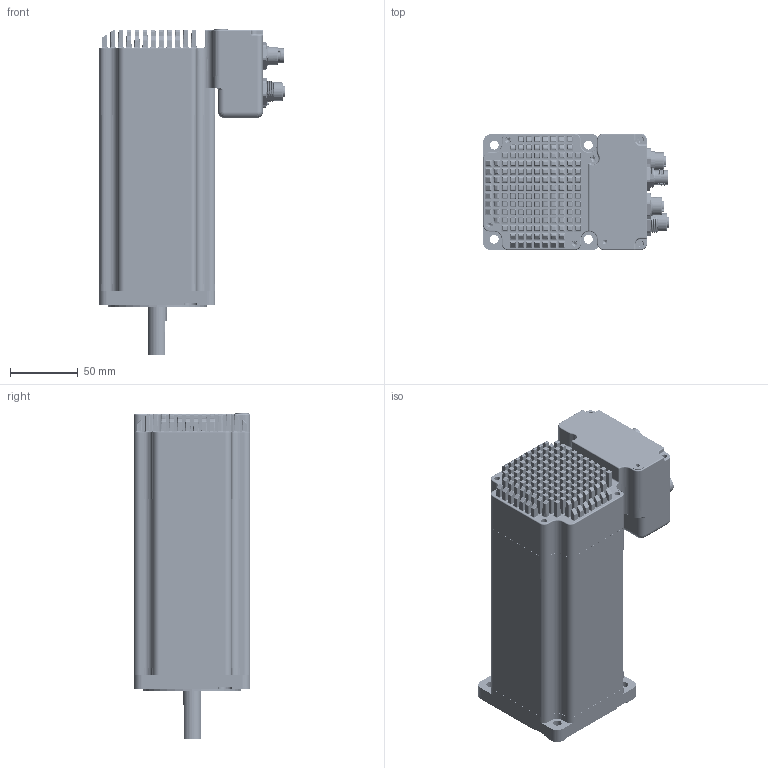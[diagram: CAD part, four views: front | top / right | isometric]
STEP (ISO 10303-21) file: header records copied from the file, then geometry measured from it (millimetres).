
FILE_DESCRIPTION (( 'STEP AP214' ), '1' );
FILE_NAME ('SWM34-6.STEP', '2016-04-29T08:19:31', ( '' ), ( '' ), 'SwSTEP 2.0', 'SolidWorks 2014', '' );
FILE_SCHEMA (( 'AUTOMOTIVE_DESIGN' ));
Length unit declared in the file: millimetre
Products named in the file (33): SWM34-6; 15427292_1; 415271_3; BA-L37PAC0AX_XX_4; 99006051X1111; 1419645; 415371; 14241331; 415371_2; BP-L22HAG0AX_XX_ASM_SW0001_2; 1430462; SWM34侧出线散热盖-00; SWM34耜堤盄萇儂裔-00; SWM34步进伺服电机集成后端盖; SWM34棠晤萇儂粣; 86步进伺服电机前端盖-2015.4.23; SWM34-6萇儂隅赽
Assembly tree (18 placements, depth 3):
  SWM34-6
    SWM34-6萇儂隅赽
    86步进伺服电机前端盖-2015.4.23
    SWM34棠晤萇儂粣
    SWM34步进伺服电机集成后端盖
    SWM34耜堤盄萇儂裔-00
    SWM34侧出线散热盖-00
    1430462
    14241331
      BP-L22HAG0AX_XX_ASM_SW0001_2
      415371_2
    1419645
      1419645
      415371
    99006051X1111  x2
    15427292_1
      BA-L37PAC0AX_XX_4
      415271_3
  BA-L37PAC0AX_XX_4
  99006051X1111
  99006051X1111
  415371
Bounding box: 137.3 x 86 x 240.5 mm (x, y, z)
Volume: 827261.9 mm3; surface area: 338328.1 mm2
Topology: 10 solids, 495 shells, 7017 faces, 18062 edges, 11171 vertices
Faces by surface type: cylinder 3078, plane 1886, bspline 1106, sphere 616, cone 225, torus 106
Entity records: 295340 total; most frequent: CARTESIAN_POINT 135341, ORIENTED_EDGE 31624, DIRECTION 30737, EDGE_CURVE 17199, AXIS2_PLACEMENT_3D 11325, VERTEX_POINT 11048, VECTOR 8087, LINE 8087
